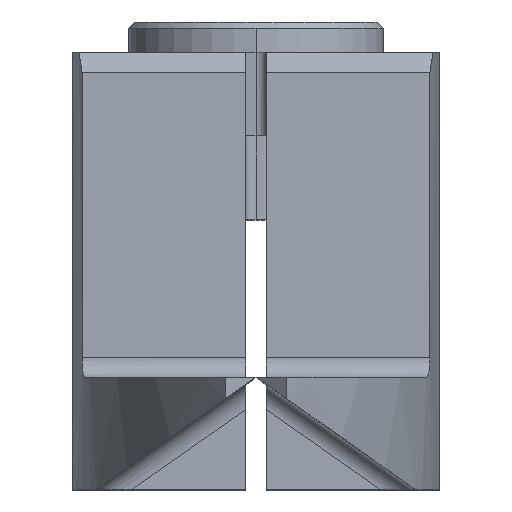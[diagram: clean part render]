
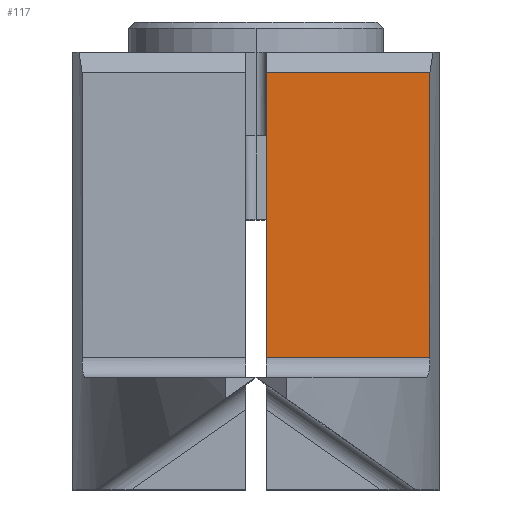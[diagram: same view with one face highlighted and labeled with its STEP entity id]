
A CAD part, top view. The second image highlights one B-rep face of the part: STEP entity #117.
In plain terms, the highlighted planar face has unit normal (0, 0, 1).
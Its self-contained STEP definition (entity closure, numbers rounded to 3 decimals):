
#41 = DIRECTION ( 'NONE',  ( 0., -1., 0. ) ) ;
#117 = ADVANCED_FACE ( 'NONE', ( #1696 ), #4399, .T. ) ;
#136 = EDGE_CURVE ( 'NONE', #360, #4008, #3838, .T. ) ;
#351 = ORIENTED_EDGE ( 'NONE', *, *, #4263, .F. ) ;
#360 = VERTEX_POINT ( 'NONE', #1407 ) ;
#718 = CARTESIAN_POINT ( 'NONE',  ( 8.541, -6.8, 22. ) ) ;
#934 = ORIENTED_EDGE ( 'NONE', *, *, #4895, .F. ) ;
#1118 = VECTOR ( 'NONE', #3440, 1000. ) ;
#1236 = VECTOR ( 'NONE', #3259, 1000. ) ;
#1407 = CARTESIAN_POINT ( 'NONE',  ( 0.5, -6.8, 22. ) ) ;
#1439 = LINE ( 'NONE', #4651, #4344 ) ;
#1696 = FACE_OUTER_BOUND ( 'NONE', #4209, .T. ) ;
#1811 = CARTESIAN_POINT ( 'NONE',  ( 0.5, 7.2, 22. ) ) ;
#2028 = CARTESIAN_POINT ( 'NONE',  ( 0.5, 7.2, 22. ) ) ;
#2177 = LINE ( 'NONE', #5001, #1118 ) ;
#2434 = DIRECTION ( 'NONE',  ( 0., 0., 1. ) ) ;
#2834 = CARTESIAN_POINT ( 'NONE',  ( 4.52, -6.8, 22. ) ) ;
#2871 = CARTESIAN_POINT ( 'NONE',  ( 0.5, -2.55, 22. ) ) ;
#2985 = VERTEX_POINT ( 'NONE', #4537 ) ;
#3219 = LINE ( 'NONE', #2871, #1236 ) ;
#3259 = DIRECTION ( 'NONE',  ( 0., 1., 0. ) ) ;
#3440 = DIRECTION ( 'NONE',  ( 0., -1., 0. ) ) ;
#3787 = AXIS2_PLACEMENT_3D ( 'NONE', #2028, #2434, #41 ) ;
#3838 = LINE ( 'NONE', #2834, #4744 ) ;
#3909 = EDGE_CURVE ( 'NONE', #4221, #2985, #1439, .T. ) ;
#4008 = VERTEX_POINT ( 'NONE', #718 ) ;
#4209 = EDGE_LOOP ( 'NONE', ( #934, #4571, #351, #4809 ) ) ;
#4221 = VERTEX_POINT ( 'NONE', #1811 ) ;
#4263 = EDGE_CURVE ( 'NONE', #2985, #4008, #2177, .T. ) ;
#4344 = VECTOR ( 'NONE', #5051, 1000. ) ;
#4399 = PLANE ( 'NONE',  #3787 ) ;
#4537 = CARTESIAN_POINT ( 'NONE',  ( 8.541, 7.2, 22. ) ) ;
#4571 = ORIENTED_EDGE ( 'NONE', *, *, #136, .T. ) ;
#4651 = CARTESIAN_POINT ( 'NONE',  ( 4.619, 7.2, 22. ) ) ;
#4744 = VECTOR ( 'NONE', #4798, 1000. ) ;
#4798 = DIRECTION ( 'NONE',  ( 1., 0., 0. ) ) ;
#4809 = ORIENTED_EDGE ( 'NONE', *, *, #3909, .F. ) ;
#4895 = EDGE_CURVE ( 'NONE', #360, #4221, #3219, .T. ) ;
#5001 = CARTESIAN_POINT ( 'NONE',  ( 8.541, -2.55, 22. ) ) ;
#5051 = DIRECTION ( 'NONE',  ( 1., 0., 0. ) ) ;
